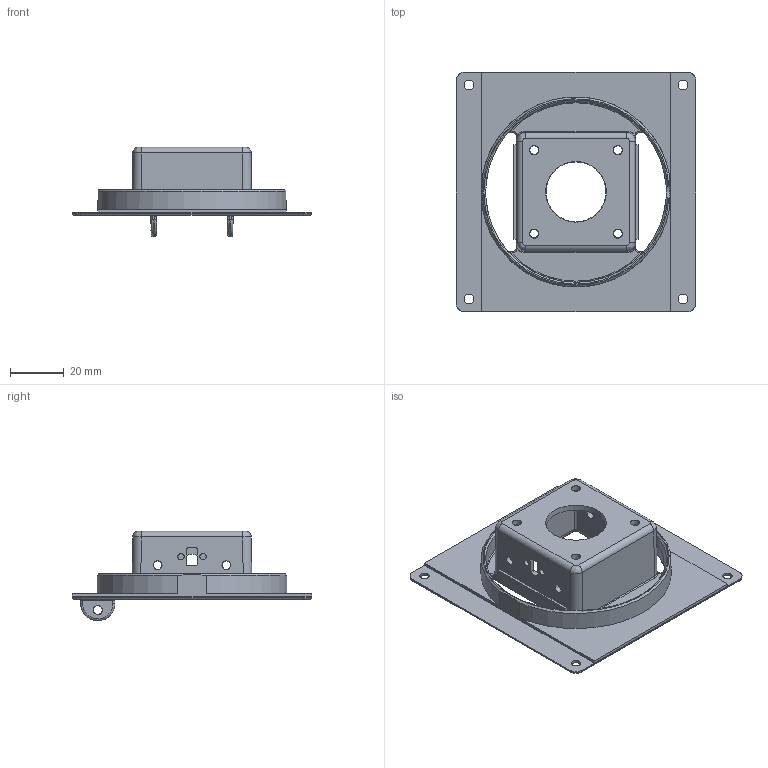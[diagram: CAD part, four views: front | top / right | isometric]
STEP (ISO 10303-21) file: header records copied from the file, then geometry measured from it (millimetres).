
FILE_DESCRIPTION(/* description */ (''),/* implementation_level */ '2;1');
FILE_NAME(/* name */ 'part-13746.stp',/* time_stamp */ '2019-04-17T14:37:03+08:00',/* author */ (''),/* organization */ (''),/* preprocessor_version */ 'ST-DEVELOPER v16',/* originating_system */ 'SIEMENS PLM Software NX 10.0',/* authorisation */ '');
FILE_SCHEMA (('AP203_CONFIGURATION_CONTROLLED_3D_DESIGN_OF_MECHANICAL_PARTS_AND_ASSEMBLIES_MIM_LF { 1 0 10303 403 2 1 2}'));
Length unit declared in the file: millimetre
Products named in the file (1): SHS13746-451611PPS_stp
Bounding box: 89.08 x 89.08 x 33.27 mm (x, y, z)
Volume: 22699.2 mm3; surface area: 25271 mm2
Topology: 1 solids, 1 shells, 264 faces, 674 edges, 403 vertices
Faces by surface type: bspline 84, plane 74, cylinder 73, cone 25, torus 8
Entity records: 9145 total; most frequent: CARTESIAN_POINT 3255, ORIENTED_EDGE 1288, DIRECTION 1077, EDGE_CURVE 644, AXIS2_PLACEMENT_3D 423, VERTEX_POINT 400, EDGE_LOOP 324, ADVANCED_FACE 264
